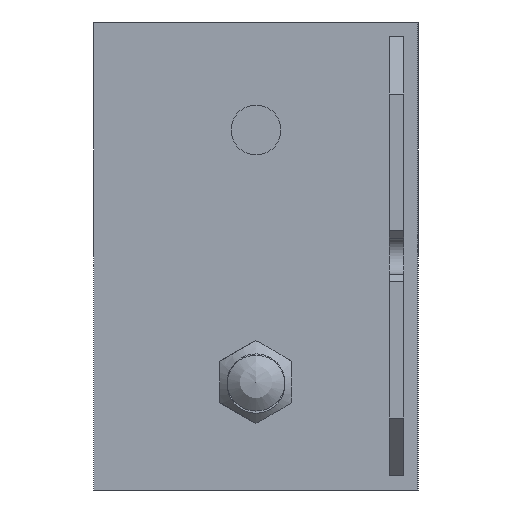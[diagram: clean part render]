
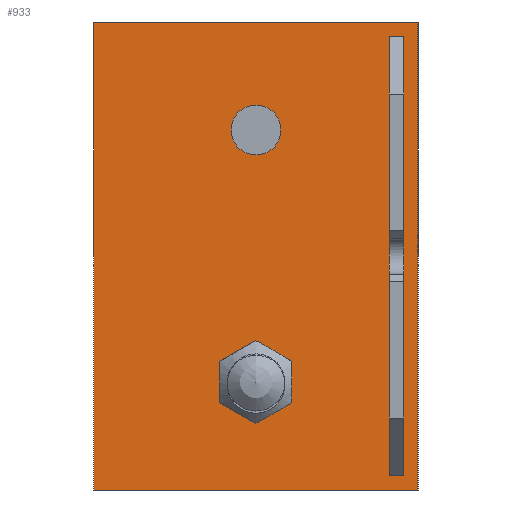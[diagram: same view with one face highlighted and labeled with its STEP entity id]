
A CAD part, left-side view. The second image highlights one B-rep face of the part: STEP entity #933.
In plain terms, the highlighted planar face has unit normal (-1, 0, 0).
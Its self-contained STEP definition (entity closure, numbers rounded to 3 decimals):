
#15=FACE_BOUND('',#375,.T.);
#16=FACE_BOUND('',#376,.T.);
#17=FACE_BOUND('',#377,.T.);
#63=PLANE('',#1024);
#130=LINE('',#1509,#231);
#150=LINE('',#1550,#251);
#151=LINE('',#1553,#252);
#154=LINE('',#1558,#255);
#167=LINE('',#1587,#268);
#168=LINE('',#1590,#269);
#169=LINE('',#1592,#270);
#170=LINE('',#1593,#271);
#231=VECTOR('',#1176,10.);
#251=VECTOR('',#1216,10.);
#252=VECTOR('',#1219,10.);
#255=VECTOR('',#1226,10.);
#268=VECTOR('',#1255,10.);
#269=VECTOR('',#1258,10.);
#270=VECTOR('',#1259,10.);
#271=VECTOR('',#1260,10.);
#323=FACE_OUTER_BOUND('',#374,.T.);
#374=EDGE_LOOP('',(#853,#854,#855,#856));
#375=EDGE_LOOP('',(#857,#858));
#376=EDGE_LOOP('',(#859,#860));
#377=EDGE_LOOP('',(#861,#862,#863,#864));
#394=CIRCLE('',#985,5.);
#395=CIRCLE('',#986,5.);
#398=CIRCLE('',#990,3.464);
#399=CIRCLE('',#991,3.464);
#430=VERTEX_POINT('',#1417);
#431=VERTEX_POINT('',#1419);
#434=VERTEX_POINT('',#1427);
#435=VERTEX_POINT('',#1429);
#466=VERTEX_POINT('',#1506);
#467=VERTEX_POINT('',#1508);
#478=VERTEX_POINT('',#1548);
#479=VERTEX_POINT('',#1552);
#484=VERTEX_POINT('',#1580);
#487=VERTEX_POINT('',#1585);
#488=VERTEX_POINT('',#1589);
#489=VERTEX_POINT('',#1591);
#532=EDGE_CURVE('',#431,#430,#394,.T.);
#533=EDGE_CURVE('',#430,#431,#395,.T.);
#537=EDGE_CURVE('',#435,#434,#398,.T.);
#538=EDGE_CURVE('',#434,#435,#399,.T.);
#575=EDGE_CURVE('',#467,#466,#130,.T.);
#596=EDGE_CURVE('',#466,#478,#150,.T.);
#597=EDGE_CURVE('',#479,#467,#151,.T.);
#600=EDGE_CURVE('',#478,#479,#154,.T.);
#614=EDGE_CURVE('',#484,#487,#167,.T.);
#615=EDGE_CURVE('',#488,#484,#168,.T.);
#616=EDGE_CURVE('',#489,#487,#169,.T.);
#617=EDGE_CURVE('',#488,#489,#170,.T.);
#853=ORIENTED_EDGE('',*,*,#615,.T.);
#854=ORIENTED_EDGE('',*,*,#614,.T.);
#855=ORIENTED_EDGE('',*,*,#616,.F.);
#856=ORIENTED_EDGE('',*,*,#617,.F.);
#857=ORIENTED_EDGE('',*,*,#532,.T.);
#858=ORIENTED_EDGE('',*,*,#533,.T.);
#859=ORIENTED_EDGE('',*,*,#537,.T.);
#860=ORIENTED_EDGE('',*,*,#538,.T.);
#861=ORIENTED_EDGE('',*,*,#597,.T.);
#862=ORIENTED_EDGE('',*,*,#575,.T.);
#863=ORIENTED_EDGE('',*,*,#596,.T.);
#864=ORIENTED_EDGE('',*,*,#600,.T.);
#933=ADVANCED_FACE('',(#323,#15,#16,#17),#63,.T.);
#985=AXIS2_PLACEMENT_3D('',#1420,#1105,#1106);
#986=AXIS2_PLACEMENT_3D('',#1421,#1107,#1108);
#990=AXIS2_PLACEMENT_3D('',#1430,#1116,#1117);
#991=AXIS2_PLACEMENT_3D('',#1431,#1118,#1119);
#1024=AXIS2_PLACEMENT_3D('',#1588,#1256,#1257);
#1105=DIRECTION('center_axis',(1.,0.,0.));
#1106=DIRECTION('ref_axis',(0.,0.,1.));
#1107=DIRECTION('center_axis',(1.,0.,0.));
#1108=DIRECTION('ref_axis',(0.,0.,1.));
#1116=DIRECTION('center_axis',(1.,0.,0.));
#1117=DIRECTION('ref_axis',(0.,0.,1.));
#1118=DIRECTION('center_axis',(1.,0.,0.));
#1119=DIRECTION('ref_axis',(0.,0.,1.));
#1176=DIRECTION('',(0.,0.,-1.));
#1216=DIRECTION('',(0.,1.,0.));
#1219=DIRECTION('',(0.,-1.,0.));
#1226=DIRECTION('',(0.,0.,1.));
#1255=DIRECTION('',(0.,1.,0.));
#1256=DIRECTION('center_axis',(-1.,0.,0.));
#1257=DIRECTION('ref_axis',(0.,0.,1.));
#1258=DIRECTION('',(0.,0.,1.));
#1259=DIRECTION('',(0.,0.,1.));
#1260=DIRECTION('',(0.,1.,0.));
#1417=CARTESIAN_POINT('',(-140.,22.5,-22.5));
#1419=CARTESIAN_POINT('',(-140.,22.5,-12.5));
#1420=CARTESIAN_POINT('Origin',(-140.,22.5,-17.5));
#1421=CARTESIAN_POINT('Origin',(-140.,22.5,-17.5));
#1427=CARTESIAN_POINT('',(-140.,22.5,14.036));
#1429=CARTESIAN_POINT('',(-140.,22.5,20.964));
#1430=CARTESIAN_POINT('Origin',(-140.,22.5,17.5));
#1431=CARTESIAN_POINT('Origin',(-140.,22.5,17.5));
#1506=CARTESIAN_POINT('',(-140.,2.,-30.5));
#1508=CARTESIAN_POINT('',(-140.,2.,30.5));
#1509=CARTESIAN_POINT('',(-140.,2.,-16.25));
#1548=CARTESIAN_POINT('',(-140.,4.,-30.5));
#1550=CARTESIAN_POINT('',(-140.,1.,-30.5));
#1552=CARTESIAN_POINT('',(-140.,4.,30.5));
#1553=CARTESIAN_POINT('',(-140.,1.,30.5));
#1558=CARTESIAN_POINT('',(-140.,4.,-16.25));
#1580=CARTESIAN_POINT('',(-140.,0.,32.5));
#1585=CARTESIAN_POINT('',(-140.,45.,32.5));
#1587=CARTESIAN_POINT('',(-140.,0.,32.5));
#1588=CARTESIAN_POINT('Origin',(-140.,0.,-32.5));
#1589=CARTESIAN_POINT('',(-140.,0.,-32.5));
#1590=CARTESIAN_POINT('',(-140.,0.,-32.5));
#1591=CARTESIAN_POINT('',(-140.,45.,-32.5));
#1592=CARTESIAN_POINT('',(-140.,45.,-32.5));
#1593=CARTESIAN_POINT('',(-140.,0.,-32.5));
